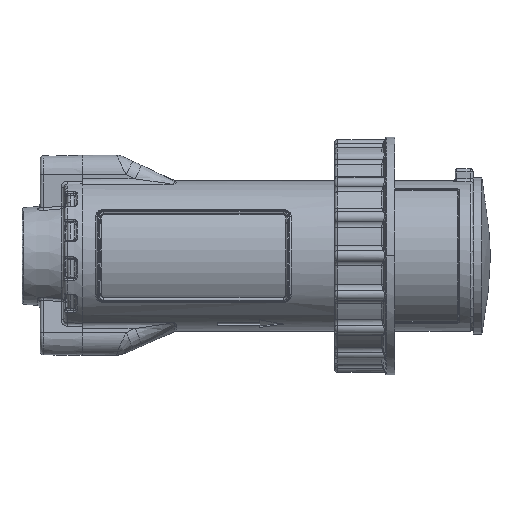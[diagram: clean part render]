
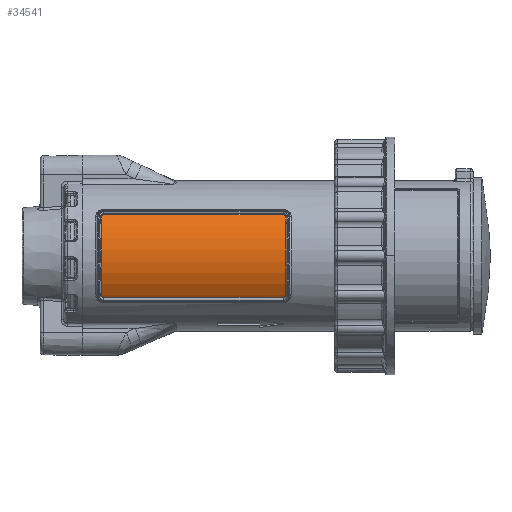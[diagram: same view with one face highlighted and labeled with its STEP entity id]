
A CAD part, top view. The second image highlights one B-rep face of the part: STEP entity #34541.
In plain terms, the highlighted cylindrical face has radius 24.5 mm (diameter 49 mm), a partial arc.
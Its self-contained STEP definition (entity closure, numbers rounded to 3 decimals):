
#651 = DIRECTION ( 'NONE',  ( 0., 0., -1. ) ) ;
#1494 = CARTESIAN_POINT ( 'NONE',  ( 87.246, 13.606, 20.375 ) ) ;
#3476 = EDGE_CURVE ( 'NONE', #24597, #20841, #53603, .T. ) ;
#4863 = EDGE_CURVE ( 'NONE', #39999, #10059, #38535, .T. ) ;
#5125 = CARTESIAN_POINT ( 'NONE',  ( 27.2, 13.738, 20.286 ) ) ;
#5871 = CARTESIAN_POINT ( 'NONE',  ( 26.4, 13.049, 20.736 ) ) ;
#6185 = CARTESIAN_POINT ( 'NONE',  ( 87.583, -13.153, 20.67 ) ) ;
#8213 = CARTESIAN_POINT ( 'NONE',  ( 87.338, 13.535, 20.422 ) ) ;
#8218 = DIRECTION ( 'NONE',  ( -1., 0., 0. ) ) ;
#9722 = CIRCLE ( 'NONE', #17231, 24.5 ) ;
#10059 = VERTEX_POINT ( 'NONE', #84037 ) ;
#10873 = EDGE_CURVE ( 'NONE', #10059, #24597, #9722, .T. ) ;
#12072 = CIRCLE ( 'NONE', #33740, 24.5 ) ;
#12594 = CARTESIAN_POINT ( 'NONE',  ( 26.417, 13.153, 20.67 ) ) ;
#13477 = DIRECTION ( 'NONE',  ( -1., 0., 0. ) ) ;
#14036 = VERTEX_POINT ( 'NONE', #31108 ) ;
#14530 = LINE ( 'NONE', #82497, #47897 ) ;
#14908 = CARTESIAN_POINT ( 'NONE',  ( 87.416, 13.45, 20.478 ) ) ;
#17231 = AXIS2_PLACEMENT_3D ( 'NONE', #80534, #40593, #651 ) ;
#19298 = CARTESIAN_POINT ( 'NONE',  ( 26.568, 13.469, 20.467 ) ) ;
#19382 = CARTESIAN_POINT ( 'NONE',  ( 26.908, -13.705, 20.308 ) ) ;
#19627 = CARTESIAN_POINT ( 'NONE',  ( 87.548, -13.254, 20.606 ) ) ;
#20179 = CARTESIAN_POINT ( 'NONE',  ( 81.5, 0., 0. ) ) ;
#20463 = DIRECTION ( 'NONE',  ( 0., 0., -1. ) ) ;
#20680 = ORIENTED_EDGE ( 'NONE', *, *, #4863, .F. ) ;
#20841 = VERTEX_POINT ( 'NONE', #26874 ) ;
#21335 = CARTESIAN_POINT ( 'NONE',  ( 86.859, 13.738, 20.286 ) ) ;
#21631 = CARTESIAN_POINT ( 'NONE',  ( 87.546, 13.253, 20.606 ) ) ;
#22040 = CARTESIAN_POINT ( 'NONE',  ( 86.8, 13.738, 20.286 ) ) ;
#22216 = CARTESIAN_POINT ( 'NONE',  ( 87.6, -12.944, 20.801 ) ) ;
#22759 = DIRECTION ( 'NONE',  ( -1., 0., 0. ) ) ;
#22883 = CYLINDRICAL_SURFACE ( 'NONE', #40801, 24.5 ) ;
#24597 = VERTEX_POINT ( 'NONE', #22216 ) ;
#26032 = CARTESIAN_POINT ( 'NONE',  ( 26.9, 13.703, 20.31 ) ) ;
#26112 = CARTESIAN_POINT ( 'NONE',  ( 26.576, -13.478, 20.46 ) ) ;
#26321 = CARTESIAN_POINT ( 'NONE',  ( 87.234, -13.633, 20.357 ) ) ;
#26791 = CARTESIAN_POINT ( 'NONE',  ( 27.2, 13.738, 20.286 ) ) ;
#26874 = CARTESIAN_POINT ( 'NONE',  ( 86.8, -13.738, 20.286 ) ) ;
#27015 = VERTEX_POINT ( 'NONE', #58059 ) ;
#28080 = CARTESIAN_POINT ( 'NONE',  ( 86.975, 13.719, 20.299 ) ) ;
#28339 = CARTESIAN_POINT ( 'NONE',  ( 87.592, 13.078, 20.718 ) ) ;
#31108 = CARTESIAN_POINT ( 'NONE',  ( 26.4, -12.944, 20.801 ) ) ;
#31246 = FACE_OUTER_BOUND ( 'NONE', #58292, .T. ) ;
#32720 = CARTESIAN_POINT ( 'NONE',  ( 27.2, 13.738, 20.286 ) ) ;
#32801 = CARTESIAN_POINT ( 'NONE',  ( 26.419, -13.161, 20.666 ) ) ;
#33018 = CARTESIAN_POINT ( 'NONE',  ( 86.95, -13.738, 20.286 ) ) ;
#33740 = AXIS2_PLACEMENT_3D ( 'NONE', #48144, #8218, #54877 ) ;
#34541 = ADVANCED_FACE ( 'NONE', ( #31246 ), #22883, .T. ) ;
#34753 = CARTESIAN_POINT ( 'NONE',  ( 87.089, 13.686, 20.321 ) ) ;
#35042 = CARTESIAN_POINT ( 'NONE',  ( 87.6, 12.944, 20.801 ) ) ;
#35841 = ORIENTED_EDGE ( 'NONE', *, *, #10873, .F. ) ;
#37186 = CARTESIAN_POINT ( 'NONE',  ( 26.4, 12.944, 20.801 ) ) ;
#38535 = B_SPLINE_CURVE_WITH_KNOTS ( 'NONE', 3,
 ( #47282, #21335, #67968, #28080, #74665, #34753, #81386, #41432, #1494, #48140, #8213, #54872, #14908, #61578, #21631, #68247, #28339, #74960, #35042 ),
 .UNSPECIFIED., .F., .F.,
 ( 4, 3, 3, 3, 3, 3, 4 ),
 ( 3.276, 3.559, 3.847, 4.141, 4.443, 5.071, 5.438 ),
 .UNSPECIFIED. ) ;
#39206 = CARTESIAN_POINT ( 'NONE',  ( 27.054, -13.738, 20.286 ) ) ;
#39490 = CARTESIAN_POINT ( 'NONE',  ( 26.4, -12.944, 20.801 ) ) ;
#39999 = VERTEX_POINT ( 'NONE', #22040 ) ;
#40593 = DIRECTION ( 'NONE',  ( 1., 0., 0. ) ) ;
#40801 = AXIS2_PLACEMENT_3D ( 'NONE', #20179, #13477, #20463 ) ;
#41432 = CARTESIAN_POINT ( 'NONE',  ( 87.195, 13.637, 20.354 ) ) ;
#47282 = CARTESIAN_POINT ( 'NONE',  ( 86.8, 13.738, 20.286 ) ) ;
#47463 = ORIENTED_EDGE ( 'NONE', *, *, #3476, .F. ) ;
#47897 = VECTOR ( 'NONE', #22759, 1000. ) ;
#48140 = CARTESIAN_POINT ( 'NONE',  ( 87.291, 13.571, 20.398 ) ) ;
#48144 = CARTESIAN_POINT ( 'NONE',  ( 26.4, 0., 0. ) ) ;
#51754 = DIRECTION ( 'NONE',  ( 1., 0., 0. ) ) ;
#51979 = VERTEX_POINT ( 'NONE', #37186 ) ;
#52532 = CARTESIAN_POINT ( 'NONE',  ( 26.4, 12.944, 20.801 ) ) ;
#52840 = CARTESIAN_POINT ( 'NONE',  ( 87.6, -13.049, 20.736 ) ) ;
#53603 = B_SPLINE_CURVE_WITH_KNOTS ( 'NONE', 5,
 ( #59564, #52840, #6185, #19627, #66245, #26321, #72945, #33018, #79652 ),
 .UNSPECIFIED., .F., .F.,
 ( 6, 3, 6 ),
 ( 3.171, 4.132, 5.333 ),
 .UNSPECIFIED. ) ;
#54872 = CARTESIAN_POINT ( 'NONE',  ( 87.38, 13.494, 20.449 ) ) ;
#54877 = DIRECTION ( 'NONE',  ( 0., 0., -1. ) ) ;
#55805 = B_SPLINE_CURVE_WITH_KNOTS ( 'NONE', 5,
 ( #85832, #39206, #19382, #66025, #26112, #72724, #32801, #79419, #39490 ),
 .UNSPECIFIED., .F., .F.,
 ( 6, 3, 6 ),
 ( 0., 0.54, 1. ),
 .UNSPECIFIED. ) ;
#57127 = EDGE_CURVE ( 'NONE', #51979, #76104, #58950, .T. ) ;
#57996 = EDGE_CURVE ( 'NONE', #27015, #14036, #55805, .T. ) ;
#58059 = CARTESIAN_POINT ( 'NONE',  ( 27.2, -13.738, 20.286 ) ) ;
#58292 = EDGE_LOOP ( 'NONE', ( #80685, #70645, #58960, #47463, #35841, #20680, #64263, #76265 ) ) ;
#58950 = B_SPLINE_CURVE_WITH_KNOTS ( 'NONE', 5,
 ( #52532, #5871, #12594, #59264, #19298, #65944, #26032, #72641, #32720 ),
 .UNSPECIFIED., .F., .F.,
 ( 6, 3, 6 ),
 ( 0., 0.444, 1. ),
 .UNSPECIFIED. ) ;
#58960 = ORIENTED_EDGE ( 'NONE', *, *, #82683, .F. ) ;
#59264 = CARTESIAN_POINT ( 'NONE',  ( 26.452, 13.254, 20.606 ) ) ;
#59564 = CARTESIAN_POINT ( 'NONE',  ( 87.6, -12.944, 20.801 ) ) ;
#61578 = CARTESIAN_POINT ( 'NONE',  ( 87.493, 13.359, 20.538 ) ) ;
#64263 = ORIENTED_EDGE ( 'NONE', *, *, #76482, .F. ) ;
#64510 = VECTOR ( 'NONE', #51754, 1000. ) ;
#65944 = CARTESIAN_POINT ( 'NONE',  ( 26.766, 13.633, 20.357 ) ) ;
#66025 = CARTESIAN_POINT ( 'NONE',  ( 26.777, -13.639, 20.353 ) ) ;
#66245 = CARTESIAN_POINT ( 'NONE',  ( 87.432, -13.469, 20.467 ) ) ;
#67258 = EDGE_CURVE ( 'NONE', #14036, #51979, #12072, .T. ) ;
#67968 = CARTESIAN_POINT ( 'NONE',  ( 86.918, 13.731, 20.29 ) ) ;
#68247 = CARTESIAN_POINT ( 'NONE',  ( 87.575, 13.142, 20.677 ) ) ;
#70645 = ORIENTED_EDGE ( 'NONE', *, *, #57996, .F. ) ;
#72641 = CARTESIAN_POINT ( 'NONE',  ( 27.05, 13.738, 20.286 ) ) ;
#72724 = CARTESIAN_POINT ( 'NONE',  ( 26.456, -13.265, 20.599 ) ) ;
#72945 = CARTESIAN_POINT ( 'NONE',  ( 87.1, -13.703, 20.31 ) ) ;
#74665 = CARTESIAN_POINT ( 'NONE',  ( 87.033, 13.706, 20.308 ) ) ;
#74960 = CARTESIAN_POINT ( 'NONE',  ( 87.6, 13.011, 20.76 ) ) ;
#76104 = VERTEX_POINT ( 'NONE', #26791 ) ;
#76265 = ORIENTED_EDGE ( 'NONE', *, *, #57127, .F. ) ;
#76482 = EDGE_CURVE ( 'NONE', #76104, #39999, #82252, .T. ) ;
#79419 = CARTESIAN_POINT ( 'NONE',  ( 26.4, -13.053, 20.734 ) ) ;
#79652 = CARTESIAN_POINT ( 'NONE',  ( 86.8, -13.738, 20.286 ) ) ;
#80534 = CARTESIAN_POINT ( 'NONE',  ( 87.6, 0., 0. ) ) ;
#80685 = ORIENTED_EDGE ( 'NONE', *, *, #67258, .F. ) ;
#81386 = CARTESIAN_POINT ( 'NONE',  ( 87.142, 13.662, 20.337 ) ) ;
#82252 = LINE ( 'NONE', #5125, #64510 ) ;
#82497 = CARTESIAN_POINT ( 'NONE',  ( 27.2, -13.738, 20.286 ) ) ;
#82683 = EDGE_CURVE ( 'NONE', #20841, #27015, #14530, .T. ) ;
#84037 = CARTESIAN_POINT ( 'NONE',  ( 87.6, 12.944, 20.801 ) ) ;
#85832 = CARTESIAN_POINT ( 'NONE',  ( 27.2, -13.738, 20.286 ) ) ;
